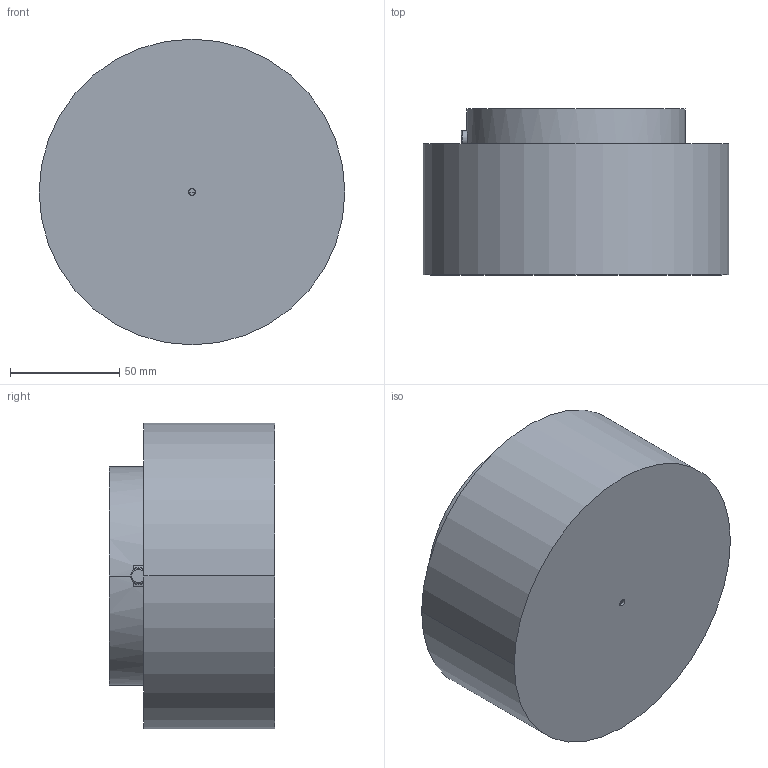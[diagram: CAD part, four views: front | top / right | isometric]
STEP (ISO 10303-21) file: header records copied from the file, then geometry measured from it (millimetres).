
FILE_DESCRIPTION((''),'2;1');
FILE_NAME('S44G102.stp','2020-09-19T08:42:02',(''),(''),'AutoCAD STEP 2000i','AutoCAD 2000i',', , ');
FILE_SCHEMA(('CONFIG_CONTROL_DESIGN'));
Length unit declared in the file: millimetre
Products named in the file (4): DRAWING1; MOLD BODY 102G44; NOZZLE S102G44; RING 44-2018
Assembly tree (3 placements, depth 2):
  DRAWING1
    MOLD BODY 102G44
    NOZZLE S102G44
    RING 44-2018
Bounding box: 140 x 76 x 140 mm (x, y, z)
Volume: 1027306.9 mm3; surface area: 99772.8 mm2
Topology: 3 solids, 3 shells, 165 faces, 394 edges, 238 vertices
Faces by surface type: cone 76, cylinder 48, plane 18, bspline 13, torus 10
Entity records: 5531 total; most frequent: CARTESIAN_POINT 1458, DIRECTION 936, ORIENTED_EDGE 772, AXIS2_PLACEMENT_3D 401, EDGE_CURVE 386, CIRCLE 245, VERTEX_POINT 236, EDGE_LOOP 186
